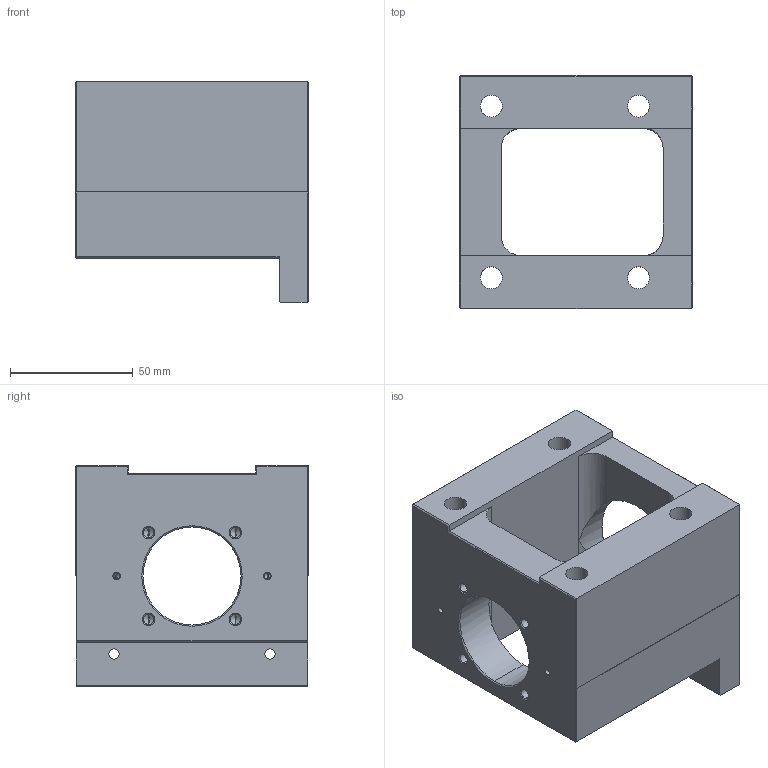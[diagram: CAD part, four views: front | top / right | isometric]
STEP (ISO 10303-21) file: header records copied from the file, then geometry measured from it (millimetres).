
FILE_DESCRIPTION (( 'STEP AP203' ), '1' );
FILE_NAME ('MBH15-EP.STEP', '2017-12-28T06:26:48', ( '' ), ( '' ), 'SwSTEP 2.0', 'SolidWorks 2017', '' );
FILE_SCHEMA (( 'CONFIG_CONTROL_DESIGN' ));
Length unit declared in the file: millimetre
Products named in the file (1): MBH15-EP
Bounding box: 95 x 95 x 90 mm (x, y, z)
Volume: 331671.4 mm3; surface area: 67050.5 mm2
Topology: 1 solids, 1 shells, 168 faces, 420 edges, 241 vertices
Faces by surface type: cone 66, cylinder 56, plane 46
Entity records: 5063 total; most frequent: CARTESIAN_POINT 984, DIRECTION 880, ORIENTED_EDGE 792, EDGE_CURVE 396, AXIS2_PLACEMENT_3D 325, VERTEX_POINT 241, LINE 230, VECTOR 230
